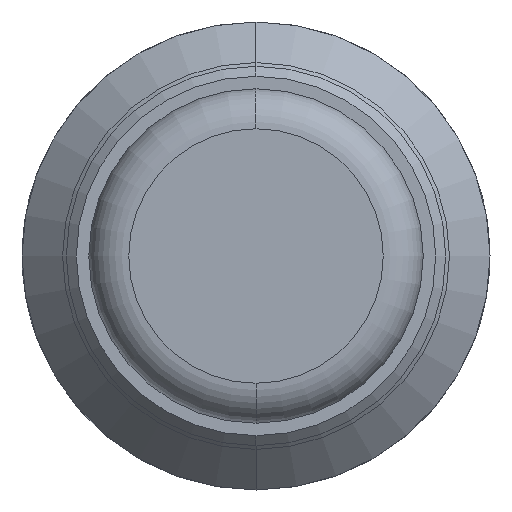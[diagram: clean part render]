
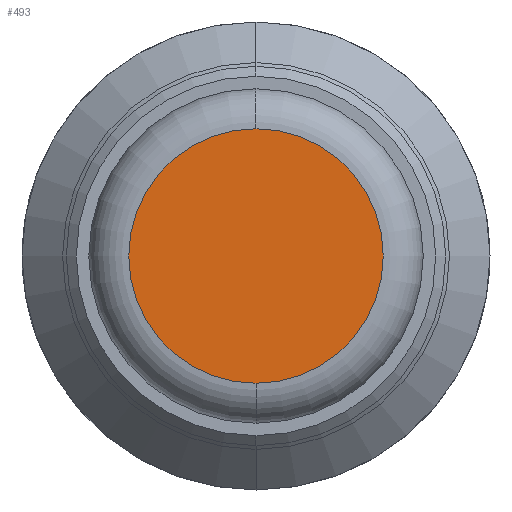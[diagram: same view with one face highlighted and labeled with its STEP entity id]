
A CAD part, left-side view. The second image highlights one B-rep face of the part: STEP entity #493.
In plain terms, the highlighted planar face has unit normal (-1, 0, 0).
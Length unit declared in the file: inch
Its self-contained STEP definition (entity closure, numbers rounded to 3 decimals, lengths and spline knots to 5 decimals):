
#487 = VERTEX_POINT ( 'NONE', #1434 ) ;
#489 = EDGE_CURVE ( 'NONE', #490, #487, #1433, .T. ) ;
#490 = VERTEX_POINT ( 'NONE', #1428 ) ;
#493 = ADVANCED_FACE ( 'NONE', ( #1427 ), #1421, .T. ) ;
#498 = ORIENTED_EDGE ( 'NONE', *, *, #499, .T. ) ;
#499 = EDGE_CURVE ( 'NONE', #487, #490, #1613, .T. ) ;
#519 = EDGE_LOOP ( 'NONE', ( #520, #498 ) ) ;
#520 = ORIENTED_EDGE ( 'NONE', *, *, #489, .T. ) ;
#1417 = DIRECTION ( 'NONE',  ( 0., 0., 1. ) ) ;
#1418 = DIRECTION ( 'NONE',  ( -1., 0., 0. ) ) ;
#1419 = CARTESIAN_POINT ( 'NONE',  ( -1.87, 0., 0. ) ) ;
#1420 = AXIS2_PLACEMENT_3D ( 'NONE', #1419, #1418, #1417 ) ;
#1421 = PLANE ( 'NONE',  #1420 ) ;
#1427 = FACE_OUTER_BOUND ( 'NONE', #519, .T. ) ;
#1428 = CARTESIAN_POINT ( 'NONE',  ( -1.87, 0., 0.1275 ) ) ;
#1429 = DIRECTION ( 'NONE',  ( 0., 0., 1. ) ) ;
#1430 = DIRECTION ( 'NONE',  ( -1., 0., 0. ) ) ;
#1431 = CARTESIAN_POINT ( 'NONE',  ( -1.87, 0., 0. ) ) ;
#1432 = AXIS2_PLACEMENT_3D ( 'NONE', #1431, #1430, #1429 ) ;
#1433 = CIRCLE ( 'NONE', #1432, 0.1275 ) ;
#1434 = CARTESIAN_POINT ( 'NONE',  ( -1.87, 0., -0.1275 ) ) ;
#1610 = DIRECTION ( 'NONE',  ( 0., 0., 1. ) ) ;
#1611 = DIRECTION ( 'NONE',  ( -1., 0., 0. ) ) ;
#1612 = AXIS2_PLACEMENT_3D ( 'NONE', #1619, #1611, #1610 ) ;
#1613 = CIRCLE ( 'NONE', #1612, 0.1275 ) ;
#1619 = CARTESIAN_POINT ( 'NONE',  ( -1.87, 0., 0. ) ) ;
